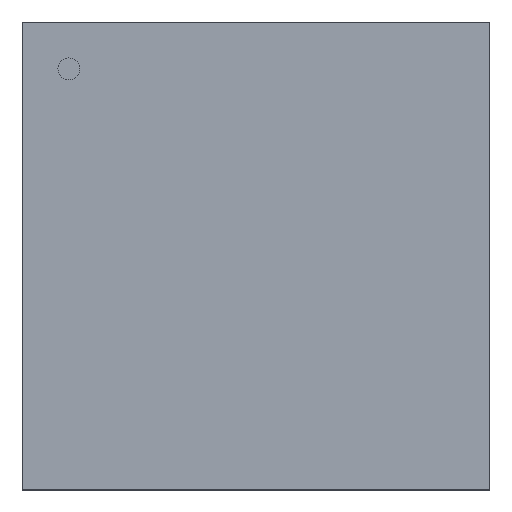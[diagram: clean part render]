
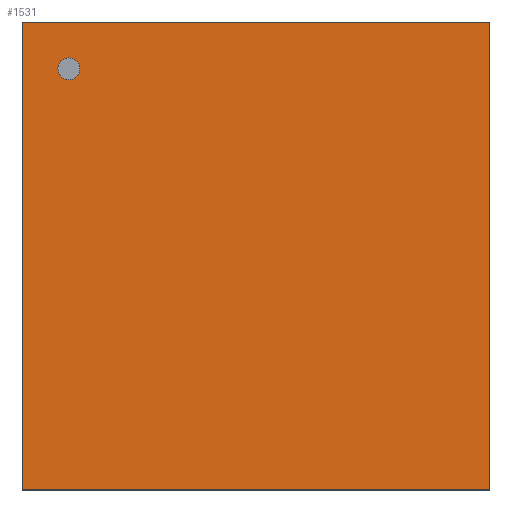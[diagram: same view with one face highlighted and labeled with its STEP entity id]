
A CAD part, top view. The second image highlights one B-rep face of the part: STEP entity #1531.
In plain terms, the highlighted planar face has unit normal (0, 0, 1).
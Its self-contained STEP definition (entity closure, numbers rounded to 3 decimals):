
#1342 = VERTEX_POINT('',#1343);
#1343 = CARTESIAN_POINT('',(-7.5,-7.5,1.36));
#1350 = PLANE('',#1351);
#1351 = AXIS2_PLACEMENT_3D('',#1352,#1353,#1354);
#1352 = CARTESIAN_POINT('',(-7.5,-7.5,0.3));
#1353 = DIRECTION('',(1.,0.,0.));
#1354 = DIRECTION('',(0.,0.,1.));
#1362 = PLANE('',#1363);
#1363 = AXIS2_PLACEMENT_3D('',#1364,#1365,#1366);
#1364 = CARTESIAN_POINT('',(-7.5,-7.5,0.3));
#1365 = DIRECTION('',(0.,1.,0.));
#1366 = DIRECTION('',(0.,0.,1.));
#1403 = VERTEX_POINT('',#1404);
#1404 = CARTESIAN_POINT('',(-7.5,7.5,1.36));
#1418 = PLANE('',#1419);
#1419 = AXIS2_PLACEMENT_3D('',#1420,#1421,#1422);
#1420 = CARTESIAN_POINT('',(-7.5,7.5,0.3));
#1421 = DIRECTION('',(0.,1.,0.));
#1422 = DIRECTION('',(0.,0.,1.));
#1430 = EDGE_CURVE('',#1342,#1403,#1431,.T.);
#1431 = SURFACE_CURVE('',#1432,(#1436,#1443),.PCURVE_S1.);
#1432 = LINE('',#1433,#1434);
#1433 = CARTESIAN_POINT('',(-7.5,-7.5,1.36));
#1434 = VECTOR('',#1435,1.);
#1435 = DIRECTION('',(0.,1.,0.));
#1436 = PCURVE('',#1350,#1437);
#1437 = DEFINITIONAL_REPRESENTATION('',(#1438),#1442);
#1438 = LINE('',#1439,#1440);
#1439 = CARTESIAN_POINT('',(1.06,0.));
#1440 = VECTOR('',#1441,1.);
#1441 = DIRECTION('',(0.,-1.));
#1442 = ( GEOMETRIC_REPRESENTATION_CONTEXT(2) 
PARAMETRIC_REPRESENTATION_CONTEXT() REPRESENTATION_CONTEXT('2D SPACE',''
  ) );
#1443 = PCURVE('',#1444,#1449);
#1444 = PLANE('',#1445);
#1445 = AXIS2_PLACEMENT_3D('',#1446,#1447,#1448);
#1446 = CARTESIAN_POINT('',(-7.5,-7.5,1.36));
#1447 = DIRECTION('',(0.,0.,1.));
#1448 = DIRECTION('',(1.,0.,0.));
#1449 = DEFINITIONAL_REPRESENTATION('',(#1450),#1454);
#1450 = LINE('',#1451,#1452);
#1451 = CARTESIAN_POINT('',(0.,0.));
#1452 = VECTOR('',#1453,1.);
#1453 = DIRECTION('',(0.,1.));
#1454 = ( GEOMETRIC_REPRESENTATION_CONTEXT(2) 
PARAMETRIC_REPRESENTATION_CONTEXT() REPRESENTATION_CONTEXT('2D SPACE',''
  ) );
#1483 = EDGE_CURVE('',#1342,#1484,#1486,.T.);
#1484 = VERTEX_POINT('',#1485);
#1485 = CARTESIAN_POINT('',(7.5,-7.5,1.36));
#1486 = SURFACE_CURVE('',#1487,(#1491,#1498),.PCURVE_S1.);
#1487 = LINE('',#1488,#1489);
#1488 = CARTESIAN_POINT('',(-7.5,-7.5,1.36));
#1489 = VECTOR('',#1490,1.);
#1490 = DIRECTION('',(1.,0.,0.));
#1491 = PCURVE('',#1362,#1492);
#1492 = DEFINITIONAL_REPRESENTATION('',(#1493),#1497);
#1493 = LINE('',#1494,#1495);
#1494 = CARTESIAN_POINT('',(1.06,0.));
#1495 = VECTOR('',#1496,1.);
#1496 = DIRECTION('',(0.,1.));
#1497 = ( GEOMETRIC_REPRESENTATION_CONTEXT(2) 
PARAMETRIC_REPRESENTATION_CONTEXT() REPRESENTATION_CONTEXT('2D SPACE',''
  ) );
#1498 = PCURVE('',#1444,#1499);
#1499 = DEFINITIONAL_REPRESENTATION('',(#1500),#1504);
#1500 = LINE('',#1501,#1502);
#1501 = CARTESIAN_POINT('',(0.,0.));
#1502 = VECTOR('',#1503,1.);
#1503 = DIRECTION('',(1.,0.));
#1504 = ( GEOMETRIC_REPRESENTATION_CONTEXT(2) 
PARAMETRIC_REPRESENTATION_CONTEXT() REPRESENTATION_CONTEXT('2D SPACE',''
  ) );
#1520 = PLANE('',#1521);
#1521 = AXIS2_PLACEMENT_3D('',#1522,#1523,#1524);
#1522 = CARTESIAN_POINT('',(7.5,-7.5,0.3));
#1523 = DIRECTION('',(1.,0.,0.));
#1524 = DIRECTION('',(0.,0.,1.));
#1531 = ADVANCED_FACE('',(#1532,#1580),#1444,.T.);
#1532 = FACE_BOUND('',#1533,.T.);
#1533 = EDGE_LOOP('',(#1534,#1535,#1536,#1559));
#1534 = ORIENTED_EDGE('',*,*,#1430,.F.);
#1535 = ORIENTED_EDGE('',*,*,#1483,.T.);
#1536 = ORIENTED_EDGE('',*,*,#1537,.T.);
#1537 = EDGE_CURVE('',#1484,#1538,#1540,.T.);
#1538 = VERTEX_POINT('',#1539);
#1539 = CARTESIAN_POINT('',(7.5,7.5,1.36));
#1540 = SURFACE_CURVE('',#1541,(#1545,#1552),.PCURVE_S1.);
#1541 = LINE('',#1542,#1543);
#1542 = CARTESIAN_POINT('',(7.5,-7.5,1.36));
#1543 = VECTOR('',#1544,1.);
#1544 = DIRECTION('',(0.,1.,0.));
#1545 = PCURVE('',#1444,#1546);
#1546 = DEFINITIONAL_REPRESENTATION('',(#1547),#1551);
#1547 = LINE('',#1548,#1549);
#1548 = CARTESIAN_POINT('',(15.,0.));
#1549 = VECTOR('',#1550,1.);
#1550 = DIRECTION('',(0.,1.));
#1551 = ( GEOMETRIC_REPRESENTATION_CONTEXT(2) 
PARAMETRIC_REPRESENTATION_CONTEXT() REPRESENTATION_CONTEXT('2D SPACE',''
  ) );
#1552 = PCURVE('',#1520,#1553);
#1553 = DEFINITIONAL_REPRESENTATION('',(#1554),#1558);
#1554 = LINE('',#1555,#1556);
#1555 = CARTESIAN_POINT('',(1.06,0.));
#1556 = VECTOR('',#1557,1.);
#1557 = DIRECTION('',(0.,-1.));
#1558 = ( GEOMETRIC_REPRESENTATION_CONTEXT(2) 
PARAMETRIC_REPRESENTATION_CONTEXT() REPRESENTATION_CONTEXT('2D SPACE',''
  ) );
#1559 = ORIENTED_EDGE('',*,*,#1560,.F.);
#1560 = EDGE_CURVE('',#1403,#1538,#1561,.T.);
#1561 = SURFACE_CURVE('',#1562,(#1566,#1573),.PCURVE_S1.);
#1562 = LINE('',#1563,#1564);
#1563 = CARTESIAN_POINT('',(-7.5,7.5,1.36));
#1564 = VECTOR('',#1565,1.);
#1565 = DIRECTION('',(1.,0.,0.));
#1566 = PCURVE('',#1444,#1567);
#1567 = DEFINITIONAL_REPRESENTATION('',(#1568),#1572);
#1568 = LINE('',#1569,#1570);
#1569 = CARTESIAN_POINT('',(0.,15.));
#1570 = VECTOR('',#1571,1.);
#1571 = DIRECTION('',(1.,0.));
#1572 = ( GEOMETRIC_REPRESENTATION_CONTEXT(2) 
PARAMETRIC_REPRESENTATION_CONTEXT() REPRESENTATION_CONTEXT('2D SPACE',''
  ) );
#1573 = PCURVE('',#1418,#1574);
#1574 = DEFINITIONAL_REPRESENTATION('',(#1575),#1579);
#1575 = LINE('',#1576,#1577);
#1576 = CARTESIAN_POINT('',(1.06,0.));
#1577 = VECTOR('',#1578,1.);
#1578 = DIRECTION('',(0.,1.));
#1579 = ( GEOMETRIC_REPRESENTATION_CONTEXT(2) 
PARAMETRIC_REPRESENTATION_CONTEXT() REPRESENTATION_CONTEXT('2D SPACE',''
  ) );
#1580 = FACE_BOUND('',#1581,.T.);
#1581 = EDGE_LOOP('',(#1582));
#1582 = ORIENTED_EDGE('',*,*,#1583,.F.);
#1583 = EDGE_CURVE('',#1584,#1584,#1586,.T.);
#1584 = VERTEX_POINT('',#1585);
#1585 = CARTESIAN_POINT('',(-5.65,6.,1.36));
#1586 = SURFACE_CURVE('',#1587,(#1592,#1599),.PCURVE_S1.);
#1587 = CIRCLE('',#1588,0.35);
#1588 = AXIS2_PLACEMENT_3D('',#1589,#1590,#1591);
#1589 = CARTESIAN_POINT('',(-6.,6.,1.36));
#1590 = DIRECTION('',(0.,0.,1.));
#1591 = DIRECTION('',(1.,0.,-0.));
#1592 = PCURVE('',#1444,#1593);
#1593 = DEFINITIONAL_REPRESENTATION('',(#1594),#1598);
#1594 = CIRCLE('',#1595,0.35);
#1595 = AXIS2_PLACEMENT_2D('',#1596,#1597);
#1596 = CARTESIAN_POINT('',(1.5,13.5));
#1597 = DIRECTION('',(1.,0.));
#1598 = ( GEOMETRIC_REPRESENTATION_CONTEXT(2) 
PARAMETRIC_REPRESENTATION_CONTEXT() REPRESENTATION_CONTEXT('2D SPACE',''
  ) );
#1599 = PCURVE('',#1600,#1605);
#1600 = CYLINDRICAL_SURFACE('',#1601,0.35);
#1601 = AXIS2_PLACEMENT_3D('',#1602,#1603,#1604);
#1602 = CARTESIAN_POINT('',(-6.,6.,1.358));
#1603 = DIRECTION('',(0.,0.,1.));
#1604 = DIRECTION('',(1.,0.,-0.));
#1605 = DEFINITIONAL_REPRESENTATION('',(#1606),#1610);
#1606 = LINE('',#1607,#1608);
#1607 = CARTESIAN_POINT('',(0.,0.002));
#1608 = VECTOR('',#1609,1.);
#1609 = DIRECTION('',(1.,0.));
#1610 = ( GEOMETRIC_REPRESENTATION_CONTEXT(2) 
PARAMETRIC_REPRESENTATION_CONTEXT() REPRESENTATION_CONTEXT('2D SPACE',''
  ) );
